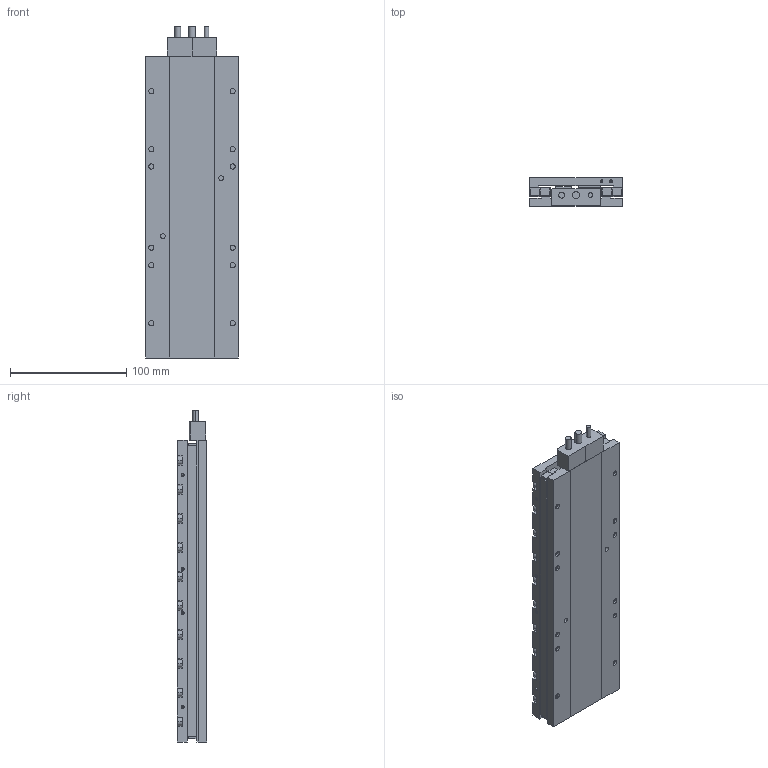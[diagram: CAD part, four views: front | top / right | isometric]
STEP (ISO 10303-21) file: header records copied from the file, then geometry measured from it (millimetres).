
FILE_DESCRIPTION((''),'2;1');
FILE_NAME('MX80L-T05_ASM','2008-03-28T',('FK20128'),(''),'PRO/ENGINEER BY PARAMETRIC TECHNOLOGY CORPORATION, 2006200','PRO/ENGINEER BY PARAMETRIC TECHNOLOGY CORPORATION, 2006200','');
FILE_SCHEMA(('CONFIG_CONTROL_DESIGN'));
Length unit declared in the file: millimetre
Products named in the file (4): MX80L-BASE-200MM; MX80L-TOP-200MM; CABLE-ASSEMBLY-MX80L-T05; MX80L-T05_ASM
Assembly tree (3 placements, depth 2):
  MX80L-T05_ASM
    MX80L-BASE-200MM
    MX80L-TOP-200MM
    CABLE-ASSEMBLY-MX80L-T05
Bounding box: 80 x 25 x 286 mm (x, y, z)
Volume: 384208.5 mm3; surface area: 132025.2 mm2
Topology: 3 solids, 35 shells, 594 faces, 1556 edges, 992 vertices
Faces by surface type: plane 294, cylinder 256, cone 44
Entity records: 18196 total; most frequent: DIRECTION 3304, CARTESIAN_POINT 3109, ORIENTED_EDGE 2896, EDGE_CURVE 1512, AXIS2_PLACEMENT_3D 1187, VERTEX_POINT 992, VECTOR 930, LINE 930
